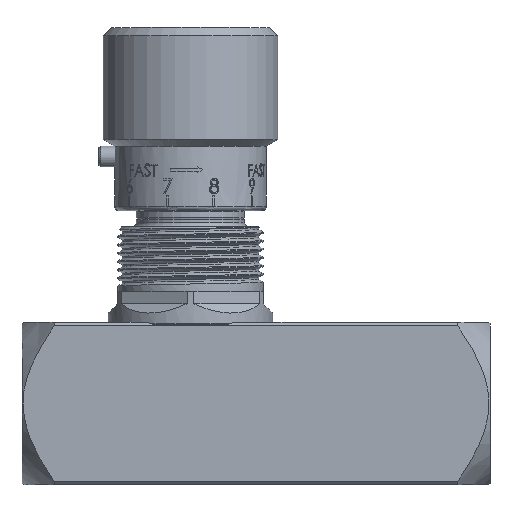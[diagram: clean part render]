
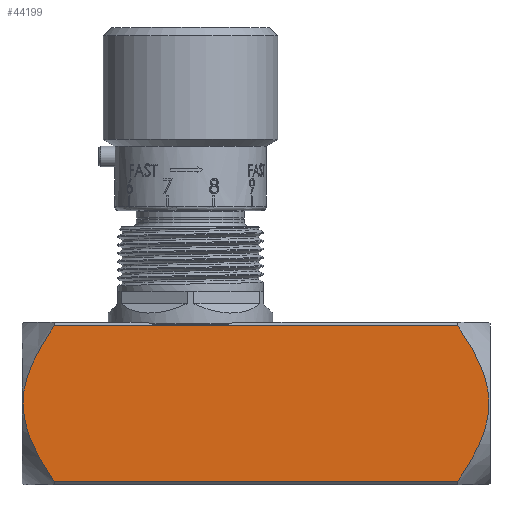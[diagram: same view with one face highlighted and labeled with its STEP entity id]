
A CAD part, top view. The second image highlights one B-rep face of the part: STEP entity #44199.
In plain terms, the highlighted planar face has unit normal (0, 0, 1).
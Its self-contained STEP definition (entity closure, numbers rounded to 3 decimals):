
#340 = CARTESIAN_POINT ( 'NONE',  ( 112.136, 2.15, 19.5 ) ) ;
#380 = CARTESIAN_POINT ( 'NONE',  ( 4.107, -12.911, 19.5 ) ) ;
#519 = CARTESIAN_POINT ( 'NONE',  ( 112.236, 0.864, 19.5 ) ) ;
#735 = CARTESIAN_POINT ( 'NONE',  ( 1.902, -8.311, 19.5 ) ) ;
#2449 = DIRECTION ( 'NONE',  ( 1., 0., 0. ) ) ;
#4205 = CARTESIAN_POINT ( 'NONE',  ( 0.531, 3.427, 19.5 ) ) ;
#4711 = CARTESIAN_POINT ( 'NONE',  ( 1.112, 5.917, 19.5 ) ) ;
#5028 = CARTESIAN_POINT ( 'NONE',  ( 108.364, 12.963, 19.5 ) ) ;
#5835 = EDGE_CURVE ( 'NONE', #36903, #49527, #8164, .T. ) ;
#6624 = ORIENTED_EDGE ( 'NONE', *, *, #5835, .F. ) ;
#8164 = LINE ( 'NONE', #46894, #47191 ) ;
#8173 = CARTESIAN_POINT ( 'NONE',  ( 111.969, 3.427, 19.5 ) ) ;
#8339 = CARTESIAN_POINT ( 'NONE',  ( 104.75, 18.675, 19.5 ) ) ;
#8378 = CARTESIAN_POINT ( 'NONE',  ( 0.321, 1.72, 19.5 ) ) ;
#8531 = CARTESIAN_POINT ( 'NONE',  ( 111.135, 6.731, 19.5 ) ) ;
#9140 = EDGE_CURVE ( 'NONE', #27319, #36903, #28461, .T. ) ;
#10680 = FACE_OUTER_BOUND ( 'NONE', #22327, .T. ) ;
#12134 = CARTESIAN_POINT ( 'NONE',  ( 112.251, -0.839, 19.5 ) ) ;
#12171 = CARTESIAN_POINT ( 'NONE',  ( 3.299, -11.407, 19.5 ) ) ;
#12350 = CARTESIAN_POINT ( 'NONE',  ( 1.365, 6.731, 19.5 ) ) ;
#12477 = CARTESIAN_POINT ( 'NONE',  ( 111.805, 4.265, 19.5 ) ) ;
#12511 = CARTESIAN_POINT ( 'NONE',  ( 6.783, -17.277, 19.5 ) ) ;
#12671 = CARTESIAN_POINT ( 'NONE',  ( 3.331, 11.472, 19.5 ) ) ;
#12812 = CARTESIAN_POINT ( 'NONE',  ( 105.712, 17.284, 19.5 ) ) ;
#12824 = B_SPLINE_CURVE_WITH_KNOTS ( 'NONE', 3,
 ( #8339, #12812, #24222, #5028, #16256, #20775, #20099, #8531, #44367, #12477, #8173, #340, #36027, #519, #47846, #12134, #40205, #39851, #16093, #24563, #24050, #27995, #28161, #16430, #20607, #48197 ),
 .UNSPECIFIED., .F., .F.,
 ( 4, 2, 2, 2, 2, 2, 2, 2, 2, 2, 2, 2, 4 ),
 ( 0.083, 0.088, 0.093, 0.096, 0.098, 0.101, 0.102, 0.103, 0.106, 0.108, 0.113, 0.118, 0.124 ),
 .UNSPECIFIED. ) ;
#14001 = CARTESIAN_POINT ( 'NONE',  ( 104.75, 18.675, 19.5 ) ) ;
#14957 = CARTESIAN_POINT ( 'NONE',  ( 7.75, 18.675, 19.5 ) ) ;
#16093 = CARTESIAN_POINT ( 'NONE',  ( 111.816, -4.213, 19.5 ) ) ;
#16256 = CARTESIAN_POINT ( 'NONE',  ( 109.169, 11.472, 19.5 ) ) ;
#16289 = CARTESIAN_POINT ( 'NONE',  ( 1.946, 8.341, 19.5 ) ) ;
#16430 = CARTESIAN_POINT ( 'NONE',  ( 106.648, -15.852, 19.5 ) ) ;
#16649 = CARTESIAN_POINT ( 'NONE',  ( 7.75, 18.675, 19.5 ) ) ;
#17674 = PLANE ( 'NONE',  #31656 ) ;
#20099 = CARTESIAN_POINT ( 'NONE',  ( 110.554, 8.341, 19.5 ) ) ;
#20309 = CARTESIAN_POINT ( 'NONE',  ( 4.136, 12.963, 19.5 ) ) ;
#20607 = CARTESIAN_POINT ( 'NONE',  ( 105.717, -17.277, 19.5 ) ) ;
#20637 = CARTESIAN_POINT ( 'NONE',  ( 0.249, -0.839, 19.5 ) ) ;
#20775 = CARTESIAN_POINT ( 'NONE',  ( 110.226, 9.138, 19.5 ) ) ;
#22327 = EDGE_LOOP ( 'NONE', ( #48817, #25475, #6624, #38462 ) ) ;
#23089 = DIRECTION ( 'NONE',  ( 1., 0., 0. ) ) ;
#23735 = CARTESIAN_POINT ( 'NONE',  ( 0.684, -4.213, 19.5 ) ) ;
#24050 = CARTESIAN_POINT ( 'NONE',  ( 110.598, -8.311, 19.5 ) ) ;
#24222 = CARTESIAN_POINT ( 'NONE',  ( 106.636, 15.87, 19.5 ) ) ;
#24429 = CARTESIAN_POINT ( 'NONE',  ( 1.311, -6.717, 19.5 ) ) ;
#24563 = CARTESIAN_POINT ( 'NONE',  ( 111.189, -6.717, 19.5 ) ) ;
#25475 = ORIENTED_EDGE ( 'NONE', *, *, #47792, .F. ) ;
#27319 = VERTEX_POINT ( 'NONE', #44002 ) ;
#27871 = CARTESIAN_POINT ( 'NONE',  ( 0.264, 0.864, 19.5 ) ) ;
#27995 = CARTESIAN_POINT ( 'NONE',  ( 109.201, -11.407, 19.5 ) ) ;
#28033 = CARTESIAN_POINT ( 'NONE',  ( 0.305, -1.686, 19.5 ) ) ;
#28161 = CARTESIAN_POINT ( 'NONE',  ( 108.393, -12.911, 19.5 ) ) ;
#28203 = CARTESIAN_POINT ( 'NONE',  ( 7.75, -18.675, 19.5 ) ) ;
#28377 = CARTESIAN_POINT ( 'NONE',  ( 0.522, -3.373, 19.5 ) ) ;
#28461 = B_SPLINE_CURVE_WITH_KNOTS ( 'NONE', 3,
 ( #28203, #12511, #48235, #380, #12171, #735, #24429, #23735, #28377, #28033, #20637, #32062, #27871, #8378, #36411, #4205, #36068, #4711, #12350, #16289, #44073, #12671, #20309, #48049, #40406, #16649 ),
 .UNSPECIFIED., .F., .F.,
 ( 4, 2, 2, 2, 2, 2, 2, 2, 2, 2, 2, 2, 4 ),
 ( 0.023, 0.028, 0.033, 0.038, 0.041, 0.043, 0.045, 0.046, 0.048, 0.051, 0.054, 0.059, 0.064 ),
 .UNSPECIFIED. ) ;
#28691 = CARTESIAN_POINT ( 'NONE',  ( 0., -18.675, 19.5 ) ) ;
#28704 = EDGE_CURVE ( 'NONE', #27319, #50372, #41429, .T. ) ;
#31452 = VECTOR ( 'NONE', #33219, 1000. ) ;
#31656 = AXIS2_PLACEMENT_3D ( 'NONE', #45430, #49777, #2449 ) ;
#32062 = CARTESIAN_POINT ( 'NONE',  ( 0.25, 0.438, 19.5 ) ) ;
#33219 = DIRECTION ( 'NONE',  ( 1., 0., 0. ) ) ;
#36027 = CARTESIAN_POINT ( 'NONE',  ( 112.179, 1.72, 19.5 ) ) ;
#36068 = CARTESIAN_POINT ( 'NONE',  ( 0.695, 4.265, 19.5 ) ) ;
#36411 = CARTESIAN_POINT ( 'NONE',  ( 0.364, 2.15, 19.5 ) ) ;
#36903 = VERTEX_POINT ( 'NONE', #14957 ) ;
#38462 = ORIENTED_EDGE ( 'NONE', *, *, #9140, .F. ) ;
#39851 = CARTESIAN_POINT ( 'NONE',  ( 111.978, -3.373, 19.5 ) ) ;
#40205 = CARTESIAN_POINT ( 'NONE',  ( 112.195, -1.686, 19.5 ) ) ;
#40406 = CARTESIAN_POINT ( 'NONE',  ( 6.788, 17.284, 19.5 ) ) ;
#41429 = LINE ( 'NONE', #28691, #31452 ) ;
#44002 = CARTESIAN_POINT ( 'NONE',  ( 7.75, -18.675, 19.5 ) ) ;
#44073 = CARTESIAN_POINT ( 'NONE',  ( 2.274, 9.138, 19.5 ) ) ;
#44199 = ADVANCED_FACE ( 'NONE', ( #10680 ), #17674, .T. ) ;
#44367 = CARTESIAN_POINT ( 'NONE',  ( 111.388, 5.917, 19.5 ) ) ;
#45430 = CARTESIAN_POINT ( 'NONE',  ( 0., 18.675, 19.5 ) ) ;
#46894 = CARTESIAN_POINT ( 'NONE',  ( 0., 18.675, 19.5 ) ) ;
#47025 = CARTESIAN_POINT ( 'NONE',  ( 104.75, -18.675, 19.5 ) ) ;
#47191 = VECTOR ( 'NONE', #23089, 1000. ) ;
#47792 = EDGE_CURVE ( 'NONE', #49527, #50372, #12824, .T. ) ;
#47846 = CARTESIAN_POINT ( 'NONE',  ( 112.25, 0.438, 19.5 ) ) ;
#48049 = CARTESIAN_POINT ( 'NONE',  ( 5.864, 15.87, 19.5 ) ) ;
#48197 = CARTESIAN_POINT ( 'NONE',  ( 104.75, -18.675, 19.5 ) ) ;
#48235 = CARTESIAN_POINT ( 'NONE',  ( 5.852, -15.852, 19.5 ) ) ;
#48817 = ORIENTED_EDGE ( 'NONE', *, *, #28704, .T. ) ;
#49527 = VERTEX_POINT ( 'NONE', #14001 ) ;
#49777 = DIRECTION ( 'NONE',  ( 0., 0., 1. ) ) ;
#50372 = VERTEX_POINT ( 'NONE', #47025 ) ;
